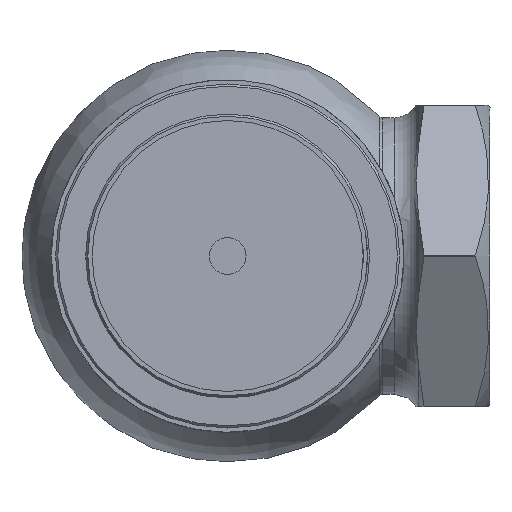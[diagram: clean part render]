
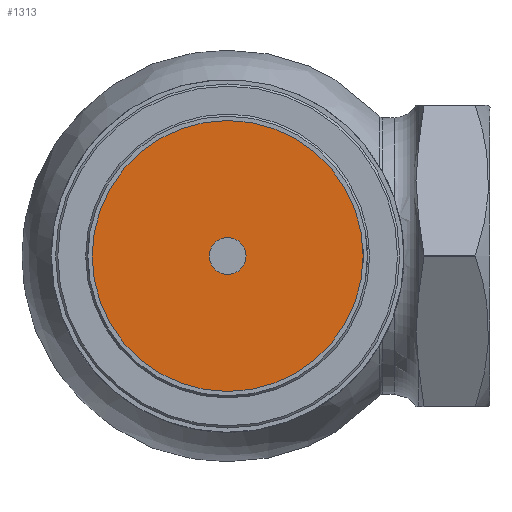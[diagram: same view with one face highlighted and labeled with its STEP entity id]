
A CAD part, left-side view. The second image highlights one B-rep face of the part: STEP entity #1313.
In plain terms, the highlighted planar face has unit normal (-1, 0, 0) as drawn and (0, -1, 0) by its records, which use the part's own axes.
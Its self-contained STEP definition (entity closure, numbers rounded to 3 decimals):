
#265=FACE_BOUND('',#506,.T.);
#294=PLANE('',#1469);
#381=FACE_OUTER_BOUND('',#505,.T.);
#505=EDGE_LOOP('',(#1206));
#506=EDGE_LOOP('',(#1207));
#570=CIRCLE('',#1464,4.283);
#573=CIRCLE('',#1468,31.5);
#693=VERTEX_POINT('',#4078);
#696=VERTEX_POINT('',#4085);
#864=EDGE_CURVE('',#693,#693,#570,.T.);
#867=EDGE_CURVE('',#696,#696,#573,.T.);
#1206=ORIENTED_EDGE('',*,*,#867,.T.);
#1207=ORIENTED_EDGE('',*,*,#864,.T.);
#1313=ADVANCED_FACE('',(#381,#265),#294,.F.);
#1464=AXIS2_PLACEMENT_3D('',#4079,#1805,#1806);
#1468=AXIS2_PLACEMENT_3D('',#4086,#1813,#1814);
#1469=AXIS2_PLACEMENT_3D('',#4087,#1815,#1816);
#1805=DIRECTION('center_axis',(0.,1.,0.));
#1806=DIRECTION('ref_axis',(-1.,0.,0.));
#1813=DIRECTION('center_axis',(0.,-1.,0.));
#1814=DIRECTION('ref_axis',(1.,0.,0.));
#1815=DIRECTION('center_axis',(0.,1.,0.));
#1816=DIRECTION('ref_axis',(0.,0.,1.));
#4078=CARTESIAN_POINT('',(4.283,0.,0.));
#4079=CARTESIAN_POINT('Origin',(0.,0.,0.));
#4085=CARTESIAN_POINT('',(-31.5,0.,0.));
#4086=CARTESIAN_POINT('Origin',(0.,0.,0.));
#4087=CARTESIAN_POINT('Origin',(0.,0.,0.));
